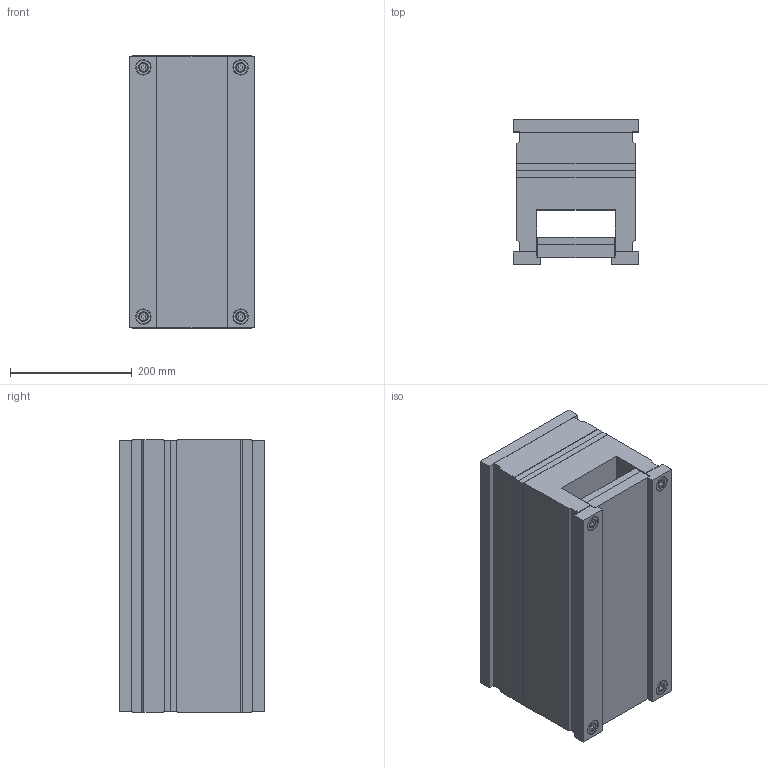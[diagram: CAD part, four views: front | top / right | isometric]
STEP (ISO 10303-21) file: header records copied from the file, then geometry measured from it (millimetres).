
FILE_DESCRIPTION (( 'STEP AP214' ), '1' );
FILE_NAME ('1966.STEP', '2002-07-10T07:52:57', ( 'Simcha Kilim' ), ( 'K. Plastics Engineering' ), 'SwSTEP 2.0', 'SolidWorks 2002025', '' );
FILE_SCHEMA (( 'AUTOMOTIVE_DESIGN' ));
Length unit declared in the file: millimetre
Products named in the file (12): 1966; ALMO (ejector half)_1966; ALMO (hot half)_1966; ALMO (guide bush)_Ø15; ALMO (guide pin)_Ø15; ALMO (ejector return plate)_1966; ALMO (guide bush)_Ø14; ALMO (screw)_M8x115; ALMO (key plate)_Ø14; ALMO (ejector plate)_1966; ALMO (guide pin)_Ø14; ALMO (screw)_M8x60
Assembly tree (28 placements, depth 2):
  1966
    ALMO (guide bush)_Ø14  x3
    ALMO (screw)_M8x115  x4
    ALMO (key plate)_Ø14  x8
    ALMO (guide bush)_Ø15
    ALMO (guide pin)_Ø14  x3
    ALMO (ejector half)_1966
    ALMO (screw)_M8x60  x4
    ALMO (hot half)_1966
    ALMO (ejector plate)_1966
    ALMO (guide pin)_Ø15
    ALMO (ejector return plate)_1966
Bounding box: 206 x 239 x 448 mm (x, y, z)
Volume: 17515809.5 mm3; surface area: 1142901.6 mm2
Topology: 28 solids, 28 shells, 706 faces, 1496 edges, 924 vertices
Faces by surface type: cylinder 260, plane 254, cone 192
Entity records: 10477 total; most frequent: DIRECTION 1914, CARTESIAN_POINT 1683, ORIENTED_EDGE 1584, EDGE_CURVE 792, AXIS2_PLACEMENT_3D 729, VERTEX_POINT 498, LINE 456, VECTOR 456
